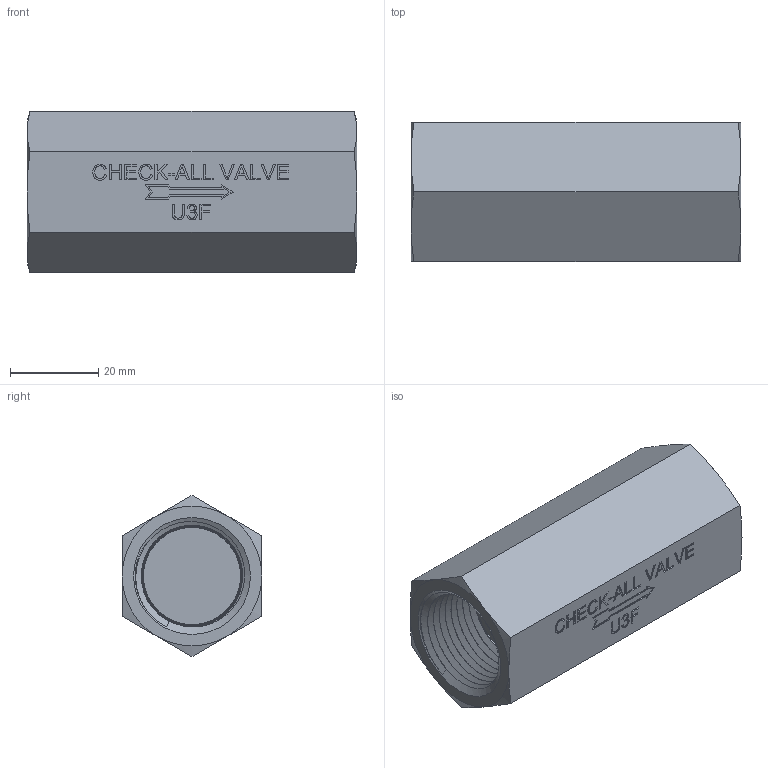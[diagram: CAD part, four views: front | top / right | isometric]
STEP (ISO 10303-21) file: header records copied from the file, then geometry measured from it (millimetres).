
FILE_DESCRIPTION( ( 'Unknown' ), '1' );
FILE_NAME( 'Y:/ENGR/3D Solid Edge Models/U3/U3-PRT/U3F.stp', 'Unknown', ( 'Unknown' ), ( 'Unknown' ), 'PSStep 14.0', 'Unknown', ' ' );
FILE_SCHEMA( ( 'AUTOMOTIVE_DESIGN { 1 0 10303 214 1 1 1 1 }' ) );
Length unit declared in the file: inch
Products named in the file (1): 1
Bounding box: 74.96 x 31.75 x 36.66 mm (x, y, z)
Volume: 51080.6 mm3; surface area: 14049 mm2
Topology: 1 solids, 1 shells, 219 faces, 564 edges, 370 vertices
Faces by surface type: extrusion 136, plane 57, cone 16, bspline 10
Entity records: 15582 total; most frequent: CARTESIAN_POINT 8912, ORIENTED_EDGE 1120, DIRECTION 659, EDGE_CURVE 560, VECTOR 479, VERTEX_POINT 368, LINE 343, B_SPLINE_CURVE_WITH_KNOTS 337
